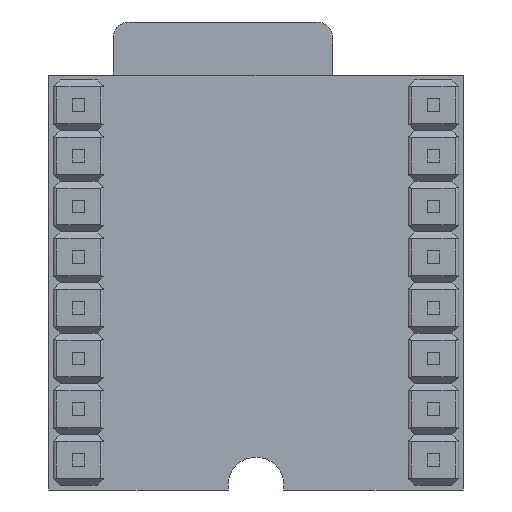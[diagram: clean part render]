
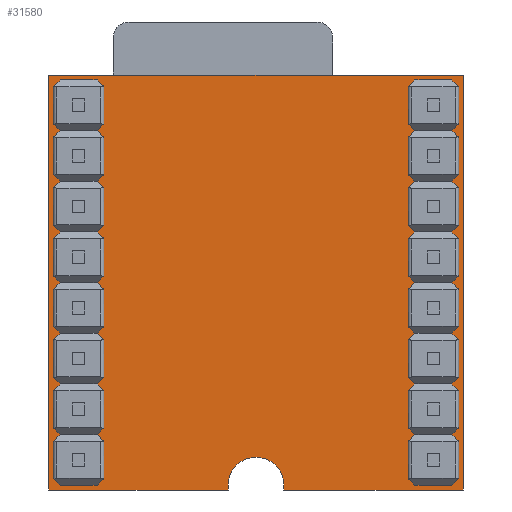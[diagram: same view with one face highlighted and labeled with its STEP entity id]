
A CAD part, front view. The second image highlights one B-rep face of the part: STEP entity #31580.
In plain terms, the highlighted planar face has unit normal (0, -1, 0).
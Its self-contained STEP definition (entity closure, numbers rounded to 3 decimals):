
#769=FACE_BOUND('',#3173,.T.);
#770=FACE_BOUND('',#3174,.T.);
#771=FACE_BOUND('',#3175,.T.);
#772=FACE_BOUND('',#3176,.T.);
#773=FACE_BOUND('',#3177,.T.);
#774=FACE_BOUND('',#3178,.T.);
#775=FACE_BOUND('',#3179,.T.);
#776=FACE_BOUND('',#3180,.T.);
#777=FACE_BOUND('',#3181,.T.);
#778=FACE_BOUND('',#3182,.T.);
#779=FACE_BOUND('',#3183,.T.);
#780=FACE_BOUND('',#3184,.T.);
#781=FACE_BOUND('',#3185,.T.);
#782=FACE_BOUND('',#3186,.T.);
#783=FACE_BOUND('',#3187,.T.);
#784=FACE_BOUND('',#3188,.T.);
#1384=FACE_OUTER_BOUND('',#3172,.T.);
#3172=EDGE_LOOP('',(#21445,#21446,#21447,#21448,#21449,#21450));
#3173=EDGE_LOOP('',(#21451));
#3174=EDGE_LOOP('',(#21452));
#3175=EDGE_LOOP('',(#21453));
#3176=EDGE_LOOP('',(#21454));
#3177=EDGE_LOOP('',(#21455));
#3178=EDGE_LOOP('',(#21456));
#3179=EDGE_LOOP('',(#21457));
#3180=EDGE_LOOP('',(#21458));
#3181=EDGE_LOOP('',(#21459));
#3182=EDGE_LOOP('',(#21460));
#3183=EDGE_LOOP('',(#21461));
#3184=EDGE_LOOP('',(#21462));
#3185=EDGE_LOOP('',(#21463));
#3186=EDGE_LOOP('',(#21464));
#3187=EDGE_LOOP('',(#21465));
#3188=EDGE_LOOP('',(#21466));
#5365=LINE('',#47179,#9211);
#5368=LINE('',#47185,#9214);
#5369=LINE('',#47188,#9215);
#5370=LINE('',#47190,#9216);
#5371=LINE('',#47191,#9217);
#9211=VECTOR('',#35646,9.021);
#9214=VECTOR('',#35651,9.021);
#9215=VECTOR('',#35654,20.8);
#9216=VECTOR('',#35655,20.8);
#9217=VECTOR('',#35656,20.8);
#12703=CIRCLE('',#33380,1.4);
#12704=CIRCLE('',#33381,0.5);
#12705=CIRCLE('',#33382,0.5);
#12706=CIRCLE('',#33383,0.5);
#12707=CIRCLE('',#33384,0.5);
#12708=CIRCLE('',#33385,0.5);
#12709=CIRCLE('',#33386,0.5);
#12710=CIRCLE('',#33387,0.5);
#12711=CIRCLE('',#33388,0.5);
#12712=CIRCLE('',#33389,0.5);
#12713=CIRCLE('',#33390,0.5);
#12714=CIRCLE('',#33391,0.5);
#12715=CIRCLE('',#33392,0.5);
#12716=CIRCLE('',#33393,0.5);
#12717=CIRCLE('',#33394,0.5);
#12718=CIRCLE('',#33395,0.5);
#12719=CIRCLE('',#33396,0.5);
#13576=VERTEX_POINT('',#47177);
#13577=VERTEX_POINT('',#47178);
#13578=VERTEX_POINT('',#47183);
#13579=VERTEX_POINT('',#47184);
#13580=VERTEX_POINT('',#47187);
#13581=VERTEX_POINT('',#47189);
#13582=VERTEX_POINT('',#47192);
#13583=VERTEX_POINT('',#47194);
#13584=VERTEX_POINT('',#47196);
#13585=VERTEX_POINT('',#47198);
#13586=VERTEX_POINT('',#47200);
#13587=VERTEX_POINT('',#47202);
#13588=VERTEX_POINT('',#47204);
#13589=VERTEX_POINT('',#47206);
#13590=VERTEX_POINT('',#47208);
#13591=VERTEX_POINT('',#47210);
#13592=VERTEX_POINT('',#47212);
#13593=VERTEX_POINT('',#47214);
#13594=VERTEX_POINT('',#47216);
#13595=VERTEX_POINT('',#47218);
#13596=VERTEX_POINT('',#47220);
#13597=VERTEX_POINT('',#47222);
#16716=EDGE_CURVE('',#13576,#13577,#5365,.T.);
#16719=EDGE_CURVE('',#13578,#13579,#5368,.T.);
#16720=EDGE_CURVE('',#13578,#13577,#12703,.T.);
#16721=EDGE_CURVE('',#13580,#13576,#5369,.T.);
#16722=EDGE_CURVE('',#13581,#13580,#5370,.T.);
#16723=EDGE_CURVE('',#13579,#13581,#5371,.T.);
#16724=EDGE_CURVE('',#13582,#13582,#12704,.T.);
#16725=EDGE_CURVE('',#13583,#13583,#12705,.T.);
#16726=EDGE_CURVE('',#13584,#13584,#12706,.T.);
#16727=EDGE_CURVE('',#13585,#13585,#12707,.T.);
#16728=EDGE_CURVE('',#13586,#13586,#12708,.T.);
#16729=EDGE_CURVE('',#13587,#13587,#12709,.T.);
#16730=EDGE_CURVE('',#13588,#13588,#12710,.T.);
#16731=EDGE_CURVE('',#13589,#13589,#12711,.T.);
#16732=EDGE_CURVE('',#13590,#13590,#12712,.T.);
#16733=EDGE_CURVE('',#13591,#13591,#12713,.T.);
#16734=EDGE_CURVE('',#13592,#13592,#12714,.T.);
#16735=EDGE_CURVE('',#13593,#13593,#12715,.T.);
#16736=EDGE_CURVE('',#13594,#13594,#12716,.T.);
#16737=EDGE_CURVE('',#13595,#13595,#12717,.T.);
#16738=EDGE_CURVE('',#13596,#13596,#12718,.T.);
#16739=EDGE_CURVE('',#13597,#13597,#12719,.T.);
#21445=ORIENTED_EDGE('',*,*,#16719,.F.);
#21446=ORIENTED_EDGE('',*,*,#16720,.T.);
#21447=ORIENTED_EDGE('',*,*,#16716,.F.);
#21448=ORIENTED_EDGE('',*,*,#16721,.F.);
#21449=ORIENTED_EDGE('',*,*,#16722,.F.);
#21450=ORIENTED_EDGE('',*,*,#16723,.F.);
#21451=ORIENTED_EDGE('',*,*,#16724,.T.);
#21452=ORIENTED_EDGE('',*,*,#16725,.T.);
#21453=ORIENTED_EDGE('',*,*,#16726,.T.);
#21454=ORIENTED_EDGE('',*,*,#16727,.T.);
#21455=ORIENTED_EDGE('',*,*,#16728,.T.);
#21456=ORIENTED_EDGE('',*,*,#16729,.T.);
#21457=ORIENTED_EDGE('',*,*,#16730,.T.);
#21458=ORIENTED_EDGE('',*,*,#16731,.T.);
#21459=ORIENTED_EDGE('',*,*,#16732,.T.);
#21460=ORIENTED_EDGE('',*,*,#16733,.T.);
#21461=ORIENTED_EDGE('',*,*,#16734,.T.);
#21462=ORIENTED_EDGE('',*,*,#16735,.T.);
#21463=ORIENTED_EDGE('',*,*,#16736,.T.);
#21464=ORIENTED_EDGE('',*,*,#16737,.T.);
#21465=ORIENTED_EDGE('',*,*,#16738,.T.);
#21466=ORIENTED_EDGE('',*,*,#16739,.T.);
#30308=PLANE('',#33379);
#31580=ADVANCED_FACE('',(#1384,#769,#770,#771,#772,#773,#774,#775,#776,
#777,#778,#779,#780,#781,#782,#783,#784),#30308,.F.);
#33379=AXIS2_PLACEMENT_3D('',#47182,#35649,#35650);
#33380=AXIS2_PLACEMENT_3D('',#47186,#35652,#35653);
#33381=AXIS2_PLACEMENT_3D('',#47193,#35657,#35658);
#33382=AXIS2_PLACEMENT_3D('',#47195,#35659,#35660);
#33383=AXIS2_PLACEMENT_3D('',#47197,#35661,#35662);
#33384=AXIS2_PLACEMENT_3D('',#47199,#35663,#35664);
#33385=AXIS2_PLACEMENT_3D('',#47201,#35665,#35666);
#33386=AXIS2_PLACEMENT_3D('',#47203,#35667,#35668);
#33387=AXIS2_PLACEMENT_3D('',#47205,#35669,#35670);
#33388=AXIS2_PLACEMENT_3D('',#47207,#35671,#35672);
#33389=AXIS2_PLACEMENT_3D('',#47209,#35673,#35674);
#33390=AXIS2_PLACEMENT_3D('',#47211,#35675,#35676);
#33391=AXIS2_PLACEMENT_3D('',#47213,#35677,#35678);
#33392=AXIS2_PLACEMENT_3D('',#47215,#35679,#35680);
#33393=AXIS2_PLACEMENT_3D('',#47217,#35681,#35682);
#33394=AXIS2_PLACEMENT_3D('',#47219,#35683,#35684);
#33395=AXIS2_PLACEMENT_3D('',#47221,#35685,#35686);
#33396=AXIS2_PLACEMENT_3D('',#47223,#35687,#35688);
#35646=DIRECTION('',(-1.,0.,0.));
#35649=DIRECTION('center_axis',(0.,1.,0.));
#35650=DIRECTION('ref_axis',(0.,0.,1.));
#35651=DIRECTION('',(-1.,0.,0.));
#35652=DIRECTION('center_axis',(0.,1.,0.));
#35653=DIRECTION('ref_axis',(0.,0.,1.));
#35654=DIRECTION('',(0.,0.,-1.));
#35655=DIRECTION('',(1.,0.,0.));
#35656=DIRECTION('',(0.,0.,1.));
#35657=DIRECTION('center_axis',(0.,1.,0.));
#35658=DIRECTION('ref_axis',(0.,0.,1.));
#35659=DIRECTION('center_axis',(0.,1.,0.));
#35660=DIRECTION('ref_axis',(0.,0.,1.));
#35661=DIRECTION('center_axis',(0.,1.,0.));
#35662=DIRECTION('ref_axis',(0.,0.,1.));
#35663=DIRECTION('center_axis',(0.,1.,0.));
#35664=DIRECTION('ref_axis',(0.,0.,1.));
#35665=DIRECTION('center_axis',(0.,1.,0.));
#35666=DIRECTION('ref_axis',(0.,0.,1.));
#35667=DIRECTION('center_axis',(0.,1.,0.));
#35668=DIRECTION('ref_axis',(0.,0.,1.));
#35669=DIRECTION('center_axis',(0.,1.,0.));
#35670=DIRECTION('ref_axis',(0.,0.,1.));
#35671=DIRECTION('center_axis',(0.,1.,0.));
#35672=DIRECTION('ref_axis',(0.,0.,1.));
#35673=DIRECTION('center_axis',(0.,1.,0.));
#35674=DIRECTION('ref_axis',(0.,0.,1.));
#35675=DIRECTION('center_axis',(0.,1.,0.));
#35676=DIRECTION('ref_axis',(0.,0.,1.));
#35677=DIRECTION('center_axis',(0.,1.,0.));
#35678=DIRECTION('ref_axis',(0.,0.,1.));
#35679=DIRECTION('center_axis',(0.,1.,0.));
#35680=DIRECTION('ref_axis',(0.,0.,1.));
#35681=DIRECTION('center_axis',(0.,1.,0.));
#35682=DIRECTION('ref_axis',(0.,0.,1.));
#35683=DIRECTION('center_axis',(0.,1.,0.));
#35684=DIRECTION('ref_axis',(0.,0.,1.));
#35685=DIRECTION('center_axis',(0.,1.,0.));
#35686=DIRECTION('ref_axis',(0.,0.,1.));
#35687=DIRECTION('center_axis',(0.,1.,0.));
#35688=DIRECTION('ref_axis',(0.,0.,1.));
#47177=CARTESIAN_POINT('',(10.4,0.,-10.4));
#47178=CARTESIAN_POINT('',(1.379,0.,-10.4));
#47179=CARTESIAN_POINT('',(10.4,0.,-10.4));
#47182=CARTESIAN_POINT('Origin',(0.,0.,0.));
#47183=CARTESIAN_POINT('',(-1.379,0.,-10.4));
#47184=CARTESIAN_POINT('',(-10.4,0.,-10.4));
#47185=CARTESIAN_POINT('',(-1.379,0.,-10.4));
#47186=CARTESIAN_POINT('Origin',(0.,0.,-10.16));
#47187=CARTESIAN_POINT('',(10.4,0.,10.4));
#47188=CARTESIAN_POINT('',(10.4,0.,10.4));
#47189=CARTESIAN_POINT('',(-10.4,0.,10.4));
#47190=CARTESIAN_POINT('',(-10.4,0.,10.4));
#47191=CARTESIAN_POINT('',(-10.4,0.,-10.4));
#47192=CARTESIAN_POINT('',(-8.89,0.,8.39));
#47193=CARTESIAN_POINT('Origin',(-8.89,0.,8.89));
#47194=CARTESIAN_POINT('',(8.89,0.,8.39));
#47195=CARTESIAN_POINT('Origin',(8.89,0.,8.89));
#47196=CARTESIAN_POINT('',(-8.89,0.,5.85));
#47197=CARTESIAN_POINT('Origin',(-8.89,0.,6.35));
#47198=CARTESIAN_POINT('',(8.89,0.,5.85));
#47199=CARTESIAN_POINT('Origin',(8.89,0.,6.35));
#47200=CARTESIAN_POINT('',(-8.89,0.,3.31));
#47201=CARTESIAN_POINT('Origin',(-8.89,0.,3.81));
#47202=CARTESIAN_POINT('',(8.89,0.,3.31));
#47203=CARTESIAN_POINT('Origin',(8.89,0.,3.81));
#47204=CARTESIAN_POINT('',(-8.89,0.,0.77));
#47205=CARTESIAN_POINT('Origin',(-8.89,0.,1.27));
#47206=CARTESIAN_POINT('',(8.89,0.,0.77));
#47207=CARTESIAN_POINT('Origin',(8.89,0.,1.27));
#47208=CARTESIAN_POINT('',(-8.89,0.,-1.77));
#47209=CARTESIAN_POINT('Origin',(-8.89,0.,-1.27));
#47210=CARTESIAN_POINT('',(8.89,0.,-1.77));
#47211=CARTESIAN_POINT('Origin',(8.89,0.,-1.27));
#47212=CARTESIAN_POINT('',(-8.89,0.,-4.31));
#47213=CARTESIAN_POINT('Origin',(-8.89,0.,-3.81));
#47214=CARTESIAN_POINT('',(8.89,0.,-4.31));
#47215=CARTESIAN_POINT('Origin',(8.89,0.,-3.81));
#47216=CARTESIAN_POINT('',(-8.89,0.,-6.85));
#47217=CARTESIAN_POINT('Origin',(-8.89,0.,-6.35));
#47218=CARTESIAN_POINT('',(8.89,0.,-6.85));
#47219=CARTESIAN_POINT('Origin',(8.89,0.,-6.35));
#47220=CARTESIAN_POINT('',(-8.89,0.,-9.39));
#47221=CARTESIAN_POINT('Origin',(-8.89,0.,-8.89));
#47222=CARTESIAN_POINT('',(8.89,0.,-9.39));
#47223=CARTESIAN_POINT('Origin',(8.89,0.,-8.89));
